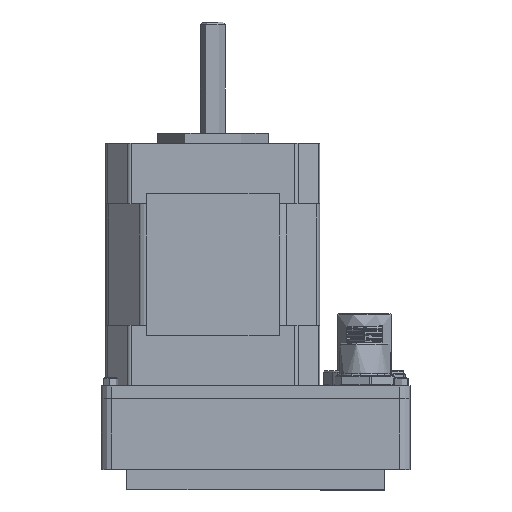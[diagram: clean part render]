
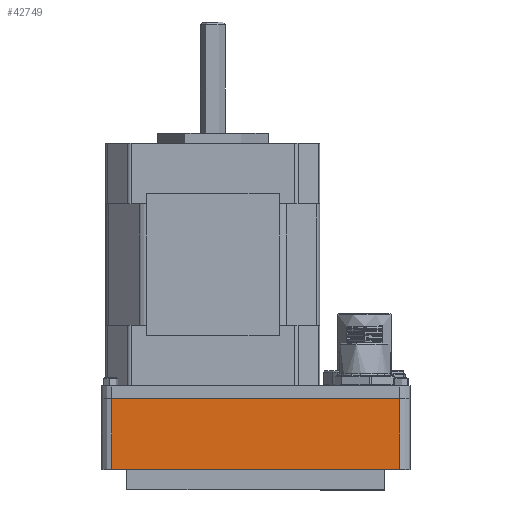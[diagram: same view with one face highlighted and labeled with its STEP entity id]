
A CAD part, top view. The second image highlights one B-rep face of the part: STEP entity #42749.
In plain terms, the highlighted planar face has unit normal (0, 0, 1) as drawn and (0, 1, 0) by its records, which use the part's own axes.
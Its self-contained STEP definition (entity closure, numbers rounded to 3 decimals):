
#466 = DIRECTION ( 'NONE',  ( 0., 0., -1. ) ) ;
#2207 = CARTESIAN_POINT ( 'NONE',  ( 2., 45., 0. ) ) ;
#4450 = EDGE_CURVE ( 'NONE', #71631, #40773, #44310, .T. ) ;
#5650 = CARTESIAN_POINT ( 'NONE',  ( 59., 45., 0. ) ) ;
#14012 = EDGE_LOOP ( 'NONE', ( #82386, #138790, #62136, #66502 ) ) ;
#17572 = DIRECTION ( 'NONE',  ( 0., 0., -1. ) ) ;
#20043 = CARTESIAN_POINT ( 'NONE',  ( 59., 45., 14. ) ) ;
#35407 = PLANE ( 'NONE',  #76386 ) ;
#40773 = VERTEX_POINT ( 'NONE', #5650 ) ;
#41597 = EDGE_CURVE ( 'NONE', #40773, #111220, #122402, .T. ) ;
#42749 = ADVANCED_FACE ( 'NONE', ( #72256 ), #35407, .F. ) ;
#44310 = LINE ( 'NONE', #20043, #138168 ) ;
#61935 = VECTOR ( 'NONE', #17572, 1000. ) ;
#62136 = ORIENTED_EDGE ( 'NONE', *, *, #130076, .F. ) ;
#62293 = DIRECTION ( 'NONE',  ( -1., 0., 0. ) ) ;
#66502 = ORIENTED_EDGE ( 'NONE', *, *, #4450, .T. ) ;
#67869 = DIRECTION ( 'NONE',  ( 0., 0., -1. ) ) ;
#70935 = DIRECTION ( 'NONE',  ( 0., -1., 0. ) ) ;
#71631 = VERTEX_POINT ( 'NONE', #140020 ) ;
#72256 = FACE_OUTER_BOUND ( 'NONE', #14012, .T. ) ;
#74630 = VECTOR ( 'NONE', #150891, 1000. ) ;
#76386 = AXIS2_PLACEMENT_3D ( 'NONE', #129505, #70935, #466 ) ;
#81013 = LINE ( 'NONE', #144542, #108604 ) ;
#82386 = ORIENTED_EDGE ( 'NONE', *, *, #41597, .T. ) ;
#87365 = EDGE_CURVE ( 'NONE', #98706, #111220, #124535, .T. ) ;
#98706 = VERTEX_POINT ( 'NONE', #122717 ) ;
#108604 = VECTOR ( 'NONE', #62293, 1000. ) ;
#111220 = VERTEX_POINT ( 'NONE', #2207 ) ;
#122402 = LINE ( 'NONE', #152393, #74630 ) ;
#122717 = CARTESIAN_POINT ( 'NONE',  ( 2., 45., 14. ) ) ;
#124535 = LINE ( 'NONE', #134744, #61935 ) ;
#129505 = CARTESIAN_POINT ( 'NONE',  ( 2., 45., 14. ) ) ;
#130076 = EDGE_CURVE ( 'NONE', #71631, #98706, #81013, .T. ) ;
#134744 = CARTESIAN_POINT ( 'NONE',  ( 2., 45., 14. ) ) ;
#138168 = VECTOR ( 'NONE', #67869, 1000. ) ;
#138790 = ORIENTED_EDGE ( 'NONE', *, *, #87365, .F. ) ;
#140020 = CARTESIAN_POINT ( 'NONE',  ( 59., 45., 14. ) ) ;
#144542 = CARTESIAN_POINT ( 'NONE',  ( 2., 45., 14. ) ) ;
#150891 = DIRECTION ( 'NONE',  ( -1., 0., 0. ) ) ;
#152393 = CARTESIAN_POINT ( 'NONE',  ( 2., 45., 0. ) ) ;
